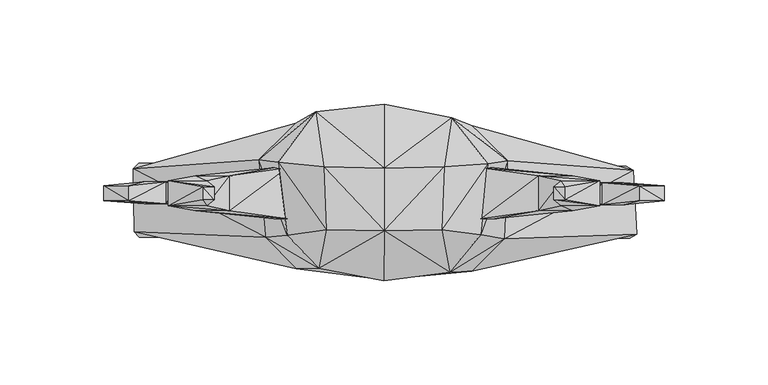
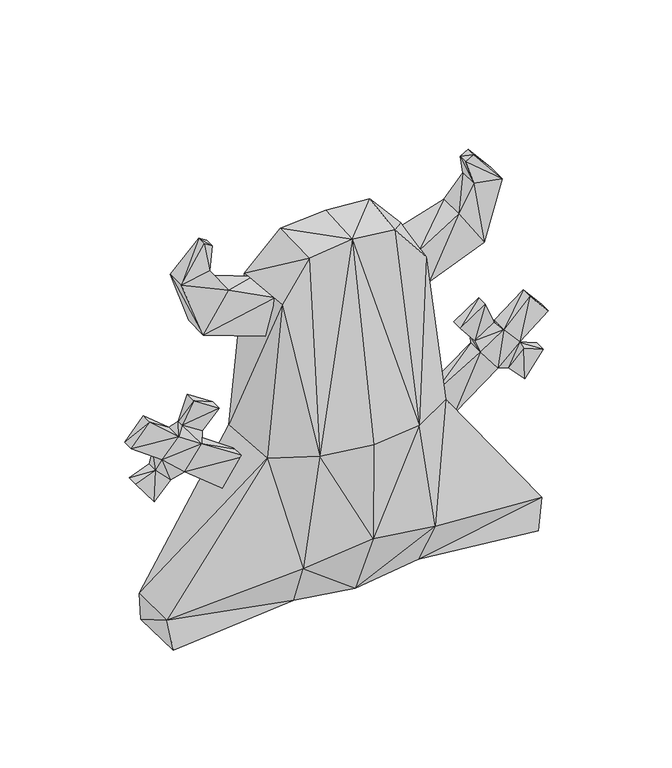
"""IFC4 building model written with IfcOpenShell, lengths in millimetres: geographic element geometry, Enscape AssetDefinition - Plushy 02 : Enscape AssetDefinition - Plushy 02."""

from ifc_helpers import new_model, si_unit, origin, place, context, project, spatial, faceted_brep, source, transform, mapped, element, save


def geographic_element_9074d599(model_context):
    return source(origin(), model_context, "Body", "Brep", [
        faceted_brep([(-46.413593, -12.452323, 216.0406858), (-90.5423611, -8.4771048, 203.6245465), (-53.0096516, -12.4523183, 192.2383159), (-74.1291791, -8.4771188, 228.7755609), (-90.5423611, 8.2719093, 203.6245465), (-103.6831886, -6.1534336, 241.1379218), (-103.6831811, 5.9482353, 241.1379218), (-53.0096442, 12.2470781, 192.2383159), (-46.4135781, 12.2470744, 216.0406858), (-74.1291791, 8.2718953, 228.7755609), (-85.0920826, -6.153442, 244.4209903), (-87.0292857, -3.1716458, 261.5450025), (-87.0292857, 2.9664268, 261.5450025), (-85.0920752, 5.9482278, 244.4209903), (-81.6976801, -3.1716477, 258.5036457), (-81.6976801, 2.9664251, 258.5036457)], [[[0, 1, 2]], [[1, 0, 3]], [[4, 2, 1]], [[3, 5, 1]], [[1, 6, 4]], [[6, 1, 5]], [[2, 4, 7]], [[7, 0, 2]], [[8, 3, 0]], [[0, 7, 8]], [[3, 8, 9]], [[5, 3, 10]], [[9, 10, 3]], [[10, 11, 5]], [[5, 12, 6]], [[12, 5, 11]], [[10, 9, 13]], [[11, 10, 14]], [[13, 14, 10]], [[7, 9, 8]], [[9, 7, 4]], [[4, 13, 9]], [[13, 4, 6]], [[6, 15, 13]], [[14, 13, 15]], [[15, 6, 12]], [[12, 14, 15]], [[14, 12, 11]]]),
        faceted_brep([(46.5469435, 12.247026, 216.0406858), (90.6757191, 8.2718125, 203.6245465), (53.1430021, 12.2470232, 192.2383159), (74.2625445, 8.2718246, 228.7755609), (90.6757191, -8.4772017, 203.6245465), (103.816539, 5.9481412, 241.1379218), (103.816539, -6.1535272, 241.1379218), (53.1430058, -12.4523733, 192.2383159), (46.5469398, -12.4523714, 216.0406858), (74.2625445, -8.4771896, 228.7755609), (85.2254406, 5.9481487, 244.4209903), (87.1626437, 2.9663534, 261.5450025), (87.1626437, -3.1717191, 261.5450025), (85.2254406, -6.1535211, 244.4209903), (81.831038, 2.9663551, 258.5036457), (81.831038, -3.1717177, 258.5036755)], [[[0, 1, 2]], [[1, 0, 3]], [[4, 2, 1]], [[3, 5, 1]], [[1, 6, 4]], [[6, 1, 5]], [[2, 4, 7]], [[7, 0, 2]], [[8, 3, 0]], [[0, 7, 8]], [[3, 8, 9]], [[5, 3, 10]], [[9, 10, 3]], [[10, 11, 5]], [[5, 12, 6]], [[12, 5, 11]], [[10, 9, 13]], [[11, 10, 14]], [[13, 14, 10]], [[7, 9, 8]], [[9, 7, 4]], [[4, 13, 9]], [[13, 4, 6]], [[6, 15, 13]], [[14, 13, 15]], [[15, 6, 12]], [[12, 14, 15]], [[14, 12, 11]]]),
        faceted_brep([(-42.1432257, -36.4958458, 44.3842448), (0.0585544, -21.142548, 6.7290245), (0.0268561, -41.7319499, 53.0831963), (-40.1507467, -22.3368499, 13.4240882), (0.0985123, 14.0080368, 6.4186016), (42.3065871, -37.641447, 44.2084149), (40.2729921, -22.4163942, 13.189598), (-40.1690304, 15.2839189, 12.8009245), (-120.1464087, -18.6310615, 25.6205499), (-117.5916716, -21.3166513, 5.9169801), (-42.4150676, 33.6532108, 43.6519645), (-120.5696389, 11.6223916, 25.6311018), (-117.9001927, 14.3325543, 5.4292288), (-56.8728894, -21.3265326, 115.7617941), (-60.1845272, 16.1240231, 116.8000251), (0.1122523, 36.908932, 52.5056012), (-32.8460522, 38.9977992, 117.8153381), (-50.8912615, 14.687364, 218.2029635), (-46.4495532, -20.2454682, 216.2824124), (-31.4190388, -36.1800492, 117.1793863), (-27.6507828, -17.70005, 239.7105098), (-28.9244335, 12.5591317, 242.2538698), (0.0720927, -18.0361085, 243.4163392), (-0.0171847, -42.1984568, 117.5519824), (31.7237936, -37.9879028, 117.3005924), (0.0681399, 11.8698096, 244.9811697), (27.7528316, -17.6131893, 239.6481484), (29.0921889, 12.5536909, 242.2018647), (0.1858338, 42.8268574, 117.8580448), (32.7016413, 36.3314338, 117.6439226), (49.8774014, 14.1311316, 217.6608741), (46.5259403, -20.1578923, 216.2755281), (59.5220514, 15.6385805, 116.5411249), (42.4940474, 32.335788, 43.8321531), (40.3342284, 14.7457626, 13.5736065), (119.9797988, 11.1017674, 25.434114), (58.0085218, -22.0335871, 116.1193177), (121.5285882, -19.6867343, 25.7225428), (116.6036054, 12.932024, 7.567476), (118.2073578, -21.7085723, 5.0342656)], [[[0, 1, 2]], [[1, 0, 3]], [[3, 4, 1]], [[5, 1, 6]], [[1, 5, 2]], [[4, 6, 1]], [[4, 3, 7]], [[3, 8, 9]], [[8, 3, 0]], [[9, 7, 3]], [[10, 4, 7]], [[11, 7, 12]], [[7, 11, 10]], [[7, 9, 12]], [[8, 12, 9]], [[12, 8, 11]], [[13, 11, 8]], [[0, 13, 8]], [[14, 10, 11]], [[11, 13, 14]], [[4, 10, 15]], [[10, 14, 16]], [[16, 15, 10]], [[17, 16, 14]], [[14, 18, 17]], [[18, 14, 13]], [[19, 18, 13]], [[13, 0, 19]], [[20, 17, 18]], [[18, 19, 20]], [[17, 20, 21]], [[16, 17, 21]], [[19, 22, 20]], [[22, 21, 20]], [[22, 19, 23]], [[19, 2, 23]], [[2, 19, 0]], [[24, 22, 23]], [[2, 24, 23]], [[21, 22, 25]], [[22, 24, 26]], [[27, 22, 26]], [[22, 27, 25]], [[25, 16, 21]], [[16, 25, 28]], [[29, 25, 27]], [[25, 29, 28]], [[26, 30, 27]], [[30, 29, 27]], [[30, 26, 31]], [[24, 31, 26]], [[29, 30, 32]], [[31, 32, 30]], [[32, 33, 29]], [[15, 29, 33]], [[29, 15, 28]], [[15, 16, 28]], [[33, 4, 15]], [[4, 33, 34]], [[33, 32, 35]], [[35, 34, 33]], [[32, 31, 36]], [[36, 35, 32]], [[31, 24, 36]], [[35, 36, 37]], [[5, 36, 24]], [[36, 5, 37]], [[37, 38, 35]], [[34, 35, 38]], [[38, 37, 39]], [[6, 37, 5]], [[37, 6, 39]], [[24, 2, 5]], [[34, 39, 6]], [[39, 34, 38]], [[6, 4, 34]]]),
        faceted_brep([(60.8865507, 3.5369594, 107.7442914), (101.0622904, 5.0216415, 112.1562272), (74.341327, 3.5369496, 89.9482965), (89.81134, 5.0216503, 127.1773428), (101.0622904, -5.678134, 112.1562272), (115.4967621, 5.0216354, 125.4402846), (109.1702655, -3.7423796, 108.5067987), (109.1702655, 3.5369301, 108.5067987), (74.341327, -3.742361, 89.9482816), (60.8865507, -3.742351, 107.7442914), (89.81134, -5.6781252, 127.1773428), (104.9079448, -5.6781326, 137.4166906), (87.9969299, 2.2728522, 133.8076144), (87.9969299, -2.4782678, 133.8076144), (100.8122265, -2.4782743, 141.9983059), (77.8855011, -3.7423549, 146.5991288), (94.1720009, -3.7423624, 157.1724415), (100.8122265, 2.2728459, 141.9983059), (77.8855011, 3.5369562, 146.5991288), (94.1720009, 3.5369473, 157.1724415), (104.9079597, 5.0216429, 137.4166906), (134.7613186, 3.5369201, 138.6865973), (122.7849573, 3.5369289, 152.6073068), (134.7613186, -3.7423896, 138.6865973), (115.4967621, -5.6781396, 125.4402846), (118.9245433, 3.5369259, 118.4765399), (122.7849573, -3.7423815, 152.6073068), (118.9245433, -3.7423836, 118.4765399), (131.8014562, -3.7423931, 113.3672073), (119.5912063, -3.7423887, 97.3522067), (119.5912063, 3.5369217, 97.3522067), (131.8014562, 3.5369163, 113.3672073)], [[[0, 1, 2]], [[1, 0, 3]], [[4, 2, 1]], [[3, 5, 1]], [[6, 1, 7]], [[1, 6, 4]], [[5, 7, 1]], [[2, 4, 8]], [[8, 0, 2]], [[9, 3, 0]], [[0, 8, 9]], [[8, 10, 9]], [[10, 8, 4]], [[3, 9, 10]], [[4, 11, 10]], [[12, 10, 13]], [[10, 12, 3]], [[11, 13, 10]], [[13, 11, 14]], [[15, 12, 13]], [[13, 16, 15]], [[16, 13, 14]], [[17, 3, 12]], [[12, 15, 18]], [[18, 17, 12]], [[15, 19, 18]], [[19, 15, 16]], [[14, 19, 16]], [[19, 14, 17]], [[17, 18, 19]], [[14, 20, 17]], [[20, 14, 11]], [[3, 17, 20]], [[5, 3, 20]], [[20, 21, 5]], [[21, 20, 22]], [[11, 22, 20]], [[5, 23, 24]], [[23, 5, 21]], [[7, 5, 25]], [[24, 25, 5]], [[22, 23, 21]], [[22, 11, 26]], [[23, 22, 26]], [[11, 4, 24]], [[24, 26, 11]], [[26, 24, 23]], [[25, 24, 27]], [[6, 24, 4]], [[24, 6, 27]], [[28, 25, 27]], [[27, 29, 28]], [[29, 27, 6]], [[6, 30, 29]], [[30, 6, 7]], [[25, 30, 7]], [[30, 28, 29]], [[28, 30, 31]], [[30, 25, 31]], [[25, 28, 31]]]),
        faceted_brep([(-60.753189, -3.7422755, 107.7442914), (-100.928925, -5.2269604, 112.1562272), (-74.207969, -3.7422669, 89.9482965), (-89.677982, -5.2269683, 127.1773428), (-100.928925, 5.4728147, 112.1562272), (-115.3633967, -5.2269557, 125.4402846), (-109.0369076, 3.5370586, 108.5067987), (-109.0369076, -3.7422499, 108.5067987), (-74.2079616, 3.537043, 89.9482816), (-60.753189, 3.5370344, 107.7442914), (-89.677982, 5.4728072, 127.1773428), (-104.7745869, 5.4728128, 137.4166906), (-87.8635645, -2.4781709, 133.8076144), (-87.8635645, 2.2729493, 133.8076144), (-100.6788611, 2.2729544, 141.9983059), (-77.7521357, 3.5370369, 146.5991288), (-94.0386429, 3.5370435, 157.1724415), (-100.6788611, -2.4781658, 141.9983059), (-77.7521357, -3.7422739, 146.5991288), (-94.0386429, -3.7422664, 157.1724415), (-104.7745869, -5.2269627, 137.4166906), (-134.6279681, -3.7422425, 138.6865973), (-122.6516142, -3.7422508, 152.6073068), (-134.6279681, 3.537067, 138.6865973), (-115.3633967, 5.4728189, 125.4402846), (-118.7912002, -3.7422469, 118.4765399), (-122.6516142, 3.5370595, 152.6073068), (-118.7912002, 3.5370616, 118.4765399), (-131.6680908, 3.5370707, 113.3672073), (-119.4578633, 3.5370674, 97.3522067), (-119.4578633, -3.7422425, 97.3522067), (-131.6680908, -3.7422387, 113.3672073)], [[[0, 1, 2]], [[1, 0, 3]], [[4, 2, 1]], [[3, 5, 1]], [[6, 1, 7]], [[1, 6, 4]], [[5, 7, 1]], [[2, 4, 8]], [[8, 0, 2]], [[9, 3, 0]], [[0, 8, 9]], [[8, 10, 9]], [[10, 8, 4]], [[3, 9, 10]], [[4, 11, 10]], [[12, 10, 13]], [[10, 12, 3]], [[11, 13, 10]], [[13, 11, 14]], [[15, 12, 13]], [[13, 16, 15]], [[16, 13, 14]], [[17, 3, 12]], [[12, 15, 18]], [[18, 17, 12]], [[15, 19, 18]], [[19, 15, 16]], [[14, 19, 16]], [[19, 14, 17]], [[17, 18, 19]], [[14, 20, 17]], [[20, 14, 11]], [[3, 17, 20]], [[5, 3, 20]], [[20, 21, 5]], [[21, 20, 22]], [[11, 22, 20]], [[5, 23, 24]], [[23, 5, 21]], [[7, 5, 25]], [[24, 25, 5]], [[22, 23, 21]], [[22, 11, 26]], [[23, 22, 26]], [[11, 4, 24]], [[24, 26, 11]], [[26, 24, 23]], [[25, 24, 27]], [[6, 24, 4]], [[24, 6, 27]], [[28, 25, 27]], [[27, 29, 28]], [[29, 27, 6]], [[6, 30, 29]], [[30, 6, 7]], [[25, 30, 7]], [[30, 28, 29]], [[28, 30, 31]], [[30, 25, 31]], [[25, 28, 31]]]),
    ])


if __name__ == "__main__":
    model = new_model("IFC4")
    model_context = context("Model", 3, world=origin())
    ifc_project = project(units=[si_unit("LENGTHUNIT", "METRE", prefix="MILLI")], contexts=[model_context])
    site = spatial("IfcSite", under=ifc_project)
    building = spatial("IfcBuilding", under=site)
    placement = place(None, origin())
    geographic_element_shape = geographic_element_9074d599(model_context)
    element("IfcGeographicElement", 1, ObjectType="Enscape AssetDefinition - Plushy 02 : Enscape AssetDefinition - Plushy 02", at=placement, inside=building, context=model_context, shape_type="MappedRepresentation", body=[
        mapped(geographic_element_shape, transform((0.0, 0.0, 0.0), x_axis=(1.0, 0.0, 0.0), y_axis=(0.0, 1.0, 0.0), z_axis=(0.0, 0.0, 1.0))),
    ])
    save(model, "model.ifc")
